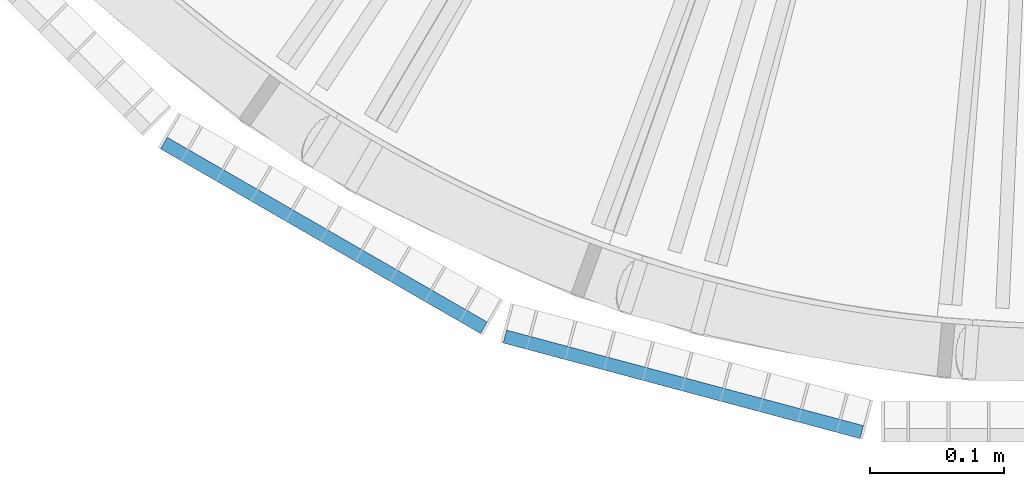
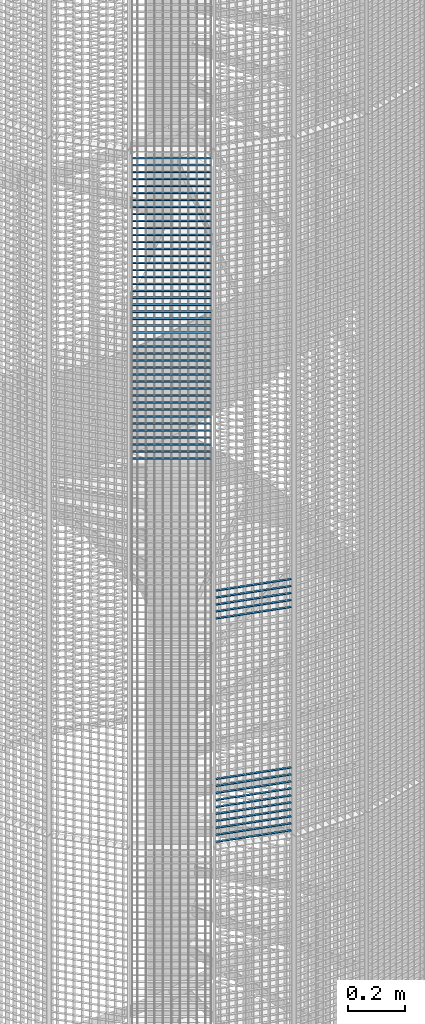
# One storey, part 164 of 1148: 59 beams, 2 elements without a shape of their own.
"""IFC2X3 building model written with IfcOpenShell, lengths in millimetres."""

from ifc_helpers import new_model, si_unit, frame, origin_with_axes, origin_2d_with_axis, place, context, subcontext, project, spatial, rectangle, extrude, material, type_object, element, aggregate, save


model = new_model("IFC2X3")

# Units and contexts
model_context = context("Model", 3, precision=1e-05, world=origin_with_axes())
body_context = subcontext(model_context, "Body", "Model", "MODEL_VIEW")
ifc_project = project(units=[si_unit("LENGTHUNIT", "METRE", prefix="MILLI"), si_unit("AREAUNIT", "SQUARE_METRE"), si_unit("VOLUMEUNIT", "CUBIC_METRE"), si_unit("MASSUNIT", "GRAM", prefix="KILO"), si_unit("TIMEUNIT", "SECOND"), si_unit("PLANEANGLEUNIT", "RADIAN"), si_unit("SOLIDANGLEUNIT", "STERADIAN"), si_unit("THERMODYNAMICTEMPERATUREUNIT", "DEGREE_CELSIUS"), si_unit("LUMINOUSINTENSITYUNIT", "LUMEN")], contexts=[model_context])

# Site, building, storey
site_placement = place(None, origin_with_axes())
site = spatial("IfcSite", under=ifc_project, at=site_placement, Name="Undefined", CompositionType="ELEMENT")
building_placement = place(site_placement, origin_with_axes())
building = spatial("IfcBuilding", under=site, at=building_placement, Name="Undefined", CompositionType="ELEMENT")
storey_placement = place(building_placement, origin_with_axes())
storey = spatial("IfcBuildingStorey", under=building, at=storey_placement, Name="Undefined", CompositionType="ELEMENT", Elevation=0.0)

# Assembly, beams
assembly_1_placement = place(storey_placement, origin_with_axes())
assembly_1 = element("IfcElementAssembly", 1, at=assembly_1_placement, inside=storey, Name="BORDURE", AssemblyPlace="NOTDEFINED", PredefinedType="NOTDEFINED")
ifc_material = material(Name="STEEL/S235JR")
beam_type = type_object("IfcBeamType", Name="PL2*10", PredefinedType="NOTDEFINED")
beam_1_placement = place(assembly_1_placement, frame((-421.483733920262, -1039.82309522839, 3300.0), z_axis=(-0.258819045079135, -0.965925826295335, 0.0), x_axis=(0.965925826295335, -0.258819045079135, 0.0)))
beam_1 = element("IfcBeam", 2, at=beam_1_placement, type_object=beam_type, material=ifc_material, Name="ENTRETOISE", context=body_context, shape_type="SweptSolid", body=[
    extrude(rectangle(XDim=2.0, YDim=10.0, at=origin_2d_with_axis()), frame((275.999999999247, 9.09494701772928e-13, 1.53210777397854e-14), z_axis=(-1.0, 0.0, 0.0), x_axis=(0.0, -1.0, 0.0)), (0.0, 0.0, 1.0), 276.0),
])
beam_2_placement = place(assembly_1_placement, frame((-421.483733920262, -1039.82309522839, 3270.0), z_axis=(-0.258819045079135, -0.965925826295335, 0.0), x_axis=(0.965925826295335, -0.258819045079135, 0.0)))
beam_2 = element("IfcBeam", 3, at=beam_2_placement, type_object=beam_type, material=ifc_material, Name="ENTRETOISE", context=body_context, shape_type="SweptSolid", body=[
    extrude(rectangle(XDim=2.0, YDim=10.0, at=origin_2d_with_axis()), frame((275.999999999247, 9.09494701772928e-13, 1.53210777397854e-14), z_axis=(-1.0, 0.0, 0.0), x_axis=(0.0, -1.0, 0.0)), (0.0, 0.0, 1.0), 276.0),
])
beam_3_placement = place(assembly_1_placement, frame((-421.483733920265, -1039.82309522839, 3990.0), z_axis=(-0.258819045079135, -0.965925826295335, 0.0), x_axis=(0.965925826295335, -0.258819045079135, 0.0)))
beam_3 = element("IfcBeam", 4, at=beam_3_placement, type_object=beam_type, material=ifc_material, Name="ENTRETOISE", context=body_context, shape_type="SweptSolid", body=[
    extrude(rectangle(XDim=2.0, YDim=10.0, at=origin_2d_with_axis()), frame((275.999999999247, 9.09494701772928e-13, 1.53210777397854e-14), z_axis=(-1.0, 0.0, 0.0), x_axis=(0.0, -1.0, 0.0)), (0.0, 0.0, 1.0), 276.0),
])
beam_4_placement = place(assembly_1_placement, frame((-421.483733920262, -1039.82309522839, 3240.0), z_axis=(-0.258819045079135, -0.965925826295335, 0.0), x_axis=(0.965925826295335, -0.258819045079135, 0.0)))
beam_4 = element("IfcBeam", 5, at=beam_4_placement, type_object=beam_type, material=ifc_material, Name="ENTRETOISE", context=body_context, shape_type="SweptSolid", body=[
    extrude(rectangle(XDim=2.0, YDim=10.0, at=origin_2d_with_axis()), frame((275.999999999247, 9.09494701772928e-13, 1.53210777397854e-14), z_axis=(-1.0, 0.0, 0.0), x_axis=(0.0, -1.0, 0.0)), (0.0, 0.0, 1.0), 276.0),
])
beam_5_placement = place(assembly_1_placement, frame((-421.483733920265, -1039.82309522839, 4020.0), z_axis=(-0.258819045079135, -0.965925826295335, 0.0), x_axis=(0.965925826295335, -0.258819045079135, 0.0)))
beam_5 = element("IfcBeam", 6, at=beam_5_placement, type_object=beam_type, material=ifc_material, Name="ENTRETOISE", context=body_context, shape_type="SweptSolid", body=[
    extrude(rectangle(XDim=2.0, YDim=10.0, at=origin_2d_with_axis()), frame((275.999999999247, 9.09494701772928e-13, 1.53210777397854e-14), z_axis=(-1.0, 0.0, 0.0), x_axis=(0.0, -1.0, 0.0)), (0.0, 0.0, 1.0), 276.0),
])
beam_6_placement = place(assembly_1_placement, frame((-421.483733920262, -1039.82309522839, 3210.0), z_axis=(-0.258819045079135, -0.965925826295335, 0.0), x_axis=(0.965925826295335, -0.258819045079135, 0.0)))
beam_6 = element("IfcBeam", 7, at=beam_6_placement, type_object=beam_type, material=ifc_material, Name="ENTRETOISE", context=body_context, shape_type="SweptSolid", body=[
    extrude(rectangle(XDim=2.0, YDim=10.0, at=origin_2d_with_axis()), frame((275.999999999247, 9.09494701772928e-13, 1.53210777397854e-14), z_axis=(-1.0, 0.0, 0.0), x_axis=(0.0, -1.0, 0.0)), (0.0, 0.0, 1.0), 276.0),
])
beam_7_placement = place(assembly_1_placement, frame((-421.483733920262, -1039.82309522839, 3180.0), z_axis=(-0.258819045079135, -0.965925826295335, 0.0), x_axis=(0.965925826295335, -0.258819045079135, 0.0)))
beam_7 = element("IfcBeam", 8, at=beam_7_placement, type_object=beam_type, material=ifc_material, Name="ENTRETOISE", context=body_context, shape_type="SweptSolid", body=[
    extrude(rectangle(XDim=2.0, YDim=10.0, at=origin_2d_with_axis()), frame((275.999999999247, 9.09494701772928e-13, 1.53210777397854e-14), z_axis=(-1.0, 0.0, 0.0), x_axis=(0.0, -1.0, 0.0)), (0.0, 0.0, 1.0), 276.0),
])
beam_8_placement = place(assembly_1_placement, frame((-421.483733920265, -1039.82309522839, 4050.0), z_axis=(-0.258819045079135, -0.965925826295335, 0.0), x_axis=(0.965925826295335, -0.258819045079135, 0.0)))
beam_8 = element("IfcBeam", 9, at=beam_8_placement, type_object=beam_type, material=ifc_material, Name="ENTRETOISE", context=body_context, shape_type="SweptSolid", body=[
    extrude(rectangle(XDim=2.0, YDim=10.0, at=origin_2d_with_axis()), frame((275.999999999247, 9.09494701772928e-13, 1.53210777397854e-14), z_axis=(-1.0, 0.0, 0.0), x_axis=(0.0, -1.0, 0.0)), (0.0, 0.0, 1.0), 276.0),
])
beam_9_placement = place(assembly_1_placement, frame((-421.483733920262, -1039.82309522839, 3150.0), z_axis=(-0.258819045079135, -0.965925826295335, 0.0), x_axis=(0.965925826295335, -0.258819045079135, 0.0)))
beam_9 = element("IfcBeam", 10, at=beam_9_placement, type_object=beam_type, material=ifc_material, Name="ENTRETOISE", context=body_context, shape_type="SweptSolid", body=[
    extrude(rectangle(XDim=2.0, YDim=10.0, at=origin_2d_with_axis()), frame((275.999999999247, 9.09494701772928e-13, 1.53210777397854e-14), z_axis=(-1.0, 0.0, 0.0), x_axis=(0.0, -1.0, 0.0)), (0.0, 0.0, 1.0), 276.0),
])
beam_10_placement = place(assembly_1_placement, frame((-421.483733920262, -1039.82309522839, 3120.0), z_axis=(-0.258819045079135, -0.965925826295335, 0.0), x_axis=(0.965925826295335, -0.258819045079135, 0.0)))
beam_10 = element("IfcBeam", 11, at=beam_10_placement, type_object=beam_type, material=ifc_material, Name="ENTRETOISE", context=body_context, shape_type="SweptSolid", body=[
    extrude(rectangle(XDim=2.0, YDim=10.0, at=origin_2d_with_axis()), frame((275.999999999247, 9.09494701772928e-13, 1.53210777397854e-14), z_axis=(-1.0, 0.0, 0.0), x_axis=(0.0, -1.0, 0.0)), (0.0, 0.0, 1.0), 276.0),
])
beam_11_placement = place(assembly_1_placement, frame((-421.483733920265, -1039.82309522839, 4080.0), z_axis=(-0.258819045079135, -0.965925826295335, 0.0), x_axis=(0.965925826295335, -0.258819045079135, 0.0)))
beam_11 = element("IfcBeam", 12, at=beam_11_placement, type_object=beam_type, material=ifc_material, Name="ENTRETOISE", context=body_context, shape_type="SweptSolid", body=[
    extrude(rectangle(XDim=2.0, YDim=10.0, at=origin_2d_with_axis()), frame((275.999999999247, 9.09494701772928e-13, 1.53210777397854e-14), z_axis=(-1.0, 0.0, 0.0), x_axis=(0.0, -1.0, 0.0)), (0.0, 0.0, 1.0), 276.0),
])
beam_12_placement = place(assembly_1_placement, frame((-421.483733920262, -1039.82309522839, 3090.0), z_axis=(-0.258819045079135, -0.965925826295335, 0.0), x_axis=(0.965925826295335, -0.258819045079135, 0.0)))
beam_12 = element("IfcBeam", 13, at=beam_12_placement, type_object=beam_type, material=ifc_material, Name="ENTRETOISE", context=body_context, shape_type="SweptSolid", body=[
    extrude(rectangle(XDim=2.0, YDim=10.0, at=origin_2d_with_axis()), frame((275.999999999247, 9.09494701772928e-13, 1.53210777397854e-14), z_axis=(-1.0, 0.0, 0.0), x_axis=(0.0, -1.0, 0.0)), (0.0, 0.0, 1.0), 276.0),
])
beam_13_placement = place(assembly_1_placement, frame((-421.483733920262, -1039.82309522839, 3060.0), z_axis=(-0.258819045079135, -0.965925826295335, 0.0), x_axis=(0.965925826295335, -0.258819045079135, 0.0)))
beam_13 = element("IfcBeam", 14, at=beam_13_placement, type_object=beam_type, material=ifc_material, Name="ENTRETOISE", context=body_context, shape_type="SweptSolid", body=[
    extrude(rectangle(XDim=2.0, YDim=10.0, at=origin_2d_with_axis()), frame((275.999999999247, 9.09494701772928e-13, 1.53210777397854e-14), z_axis=(-1.0, 0.0, 0.0), x_axis=(0.0, -1.0, 0.0)), (0.0, 0.0, 1.0), 276.0),
])
beam_14_placement = place(assembly_1_placement, frame((-421.483733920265, -1039.82309522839, 4110.0), z_axis=(-0.258819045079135, -0.965925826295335, 0.0), x_axis=(0.965925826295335, -0.258819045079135, 0.0)))
beam_14 = element("IfcBeam", 15, at=beam_14_placement, type_object=beam_type, material=ifc_material, Name="ENTRETOISE", context=body_context, shape_type="SweptSolid", body=[
    extrude(rectangle(XDim=2.0, YDim=10.0, at=origin_2d_with_axis()), frame((275.999999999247, 9.09494701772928e-13, 1.53210777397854e-14), z_axis=(-1.0, 0.0, 0.0), x_axis=(0.0, -1.0, 0.0)), (0.0, 0.0, 1.0), 276.0),
])
beam_15_placement = place(assembly_1_placement, frame((-421.48373392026, -1039.82309522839, 3030.0), z_axis=(-0.258819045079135, -0.965925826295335, 0.0), x_axis=(0.965925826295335, -0.258819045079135, 0.0)))
beam_15 = element("IfcBeam", 16, at=beam_15_placement, type_object=beam_type, material=ifc_material, Name="ENTRETOISE", context=body_context, shape_type="SweptSolid", body=[
    extrude(rectangle(XDim=2.0, YDim=10.0, at=origin_2d_with_axis()), frame((275.999999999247, 9.09494701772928e-13, 1.53210777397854e-14), z_axis=(-1.0, 0.0, 0.0), x_axis=(0.0, -1.0, 0.0)), (0.0, 0.0, 1.0), 276.0),
])
aggregate(assembly_1, [beam_1, beam_2, beam_3, beam_4, beam_5, beam_6, beam_7, beam_8, beam_9, beam_10, beam_11, beam_12, beam_13, beam_14, beam_15])

assembly_2_placement = place(storey_placement, origin_with_axes())
assembly_2 = element("IfcElementAssembly", 17, at=assembly_2_placement, inside=storey, Name="BORDURE", AssemblyPlace="NOTDEFINED", PredefinedType="NOTDEFINED")
beam_16_placement = place(assembly_2_placement, frame((-676.248044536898, -895.303964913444, 5970.0), z_axis=(-0.49999999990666, -0.866025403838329, 0.0), x_axis=(0.866025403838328, -0.49999999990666, 0.0)))
beam_16 = element("IfcBeam", 18, at=beam_16_placement, type_object=beam_type, material=ifc_material, Name="ENTRETOISE", context=body_context, shape_type="SweptSolid", body=[
    extrude(rectangle(XDim=2.0, YDim=10.0, at=origin_2d_with_axis()), frame((275.999999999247, 9.09494701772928e-13, 1.53210777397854e-14), z_axis=(-1.0, 0.0, 0.0), x_axis=(0.0, -1.0, 0.0)), (0.0, 0.0, 1.0), 276.0),
])
beam_17_placement = place(assembly_2_placement, frame((-676.248044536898, -895.303964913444, 5940.0), z_axis=(-0.49999999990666, -0.866025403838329, 0.0), x_axis=(0.866025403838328, -0.49999999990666, 0.0)))
beam_17 = element("IfcBeam", 19, at=beam_17_placement, type_object=beam_type, material=ifc_material, Name="ENTRETOISE", context=body_context, shape_type="SweptSolid", body=[
    extrude(rectangle(XDim=2.0, YDim=10.0, at=origin_2d_with_axis()), frame((275.999999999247, 9.09494701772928e-13, 1.53210777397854e-14), z_axis=(-1.0, 0.0, 0.0), x_axis=(0.0, -1.0, 0.0)), (0.0, 0.0, 1.0), 276.0),
])
beam_18_placement = place(assembly_2_placement, frame((-676.248044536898, -895.303964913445, 5910.0), z_axis=(-0.49999999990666, -0.866025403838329, 0.0), x_axis=(0.866025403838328, -0.49999999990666, 0.0)))
beam_18 = element("IfcBeam", 20, at=beam_18_placement, type_object=beam_type, material=ifc_material, Name="ENTRETOISE", context=body_context, shape_type="SweptSolid", body=[
    extrude(rectangle(XDim=2.0, YDim=10.0, at=origin_2d_with_axis()), frame((275.999999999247, 9.09494701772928e-13, 1.53210777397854e-14), z_axis=(-1.0, 0.0, 0.0), x_axis=(0.0, -1.0, 0.0)), (0.0, 0.0, 1.0), 276.0),
])
beam_19_placement = place(assembly_2_placement, frame((-676.248044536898, -895.303964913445, 5880.0), z_axis=(-0.49999999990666, -0.866025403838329, 0.0), x_axis=(0.866025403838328, -0.49999999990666, 0.0)))
beam_19 = element("IfcBeam", 21, at=beam_19_placement, type_object=beam_type, material=ifc_material, Name="ENTRETOISE", context=body_context, shape_type="SweptSolid", body=[
    extrude(rectangle(XDim=2.0, YDim=10.0, at=origin_2d_with_axis()), frame((275.999999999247, 9.09494701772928e-13, 1.53210777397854e-14), z_axis=(-1.0, 0.0, 0.0), x_axis=(0.0, -1.0, 0.0)), (0.0, 0.0, 1.0), 276.0),
])
beam_20_placement = place(assembly_2_placement, frame((-676.248044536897, -895.303964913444, 5850.0), z_axis=(-0.49999999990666, -0.866025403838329, 0.0), x_axis=(0.866025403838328, -0.49999999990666, 0.0)))
beam_20 = element("IfcBeam", 22, at=beam_20_placement, type_object=beam_type, material=ifc_material, Name="ENTRETOISE", context=body_context, shape_type="SweptSolid", body=[
    extrude(rectangle(XDim=2.0, YDim=10.0, at=origin_2d_with_axis()), frame((275.999999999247, 9.09494701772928e-13, 1.53210777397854e-14), z_axis=(-1.0, 0.0, 0.0), x_axis=(0.0, -1.0, 0.0)), (0.0, 0.0, 1.0), 276.0),
])
beam_21_placement = place(assembly_2_placement, frame((-676.248044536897, -895.303964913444, 5820.0), z_axis=(-0.49999999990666, -0.866025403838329, 0.0), x_axis=(0.866025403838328, -0.49999999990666, 0.0)))
beam_21 = element("IfcBeam", 23, at=beam_21_placement, type_object=beam_type, material=ifc_material, Name="ENTRETOISE", context=body_context, shape_type="SweptSolid", body=[
    extrude(rectangle(XDim=2.0, YDim=10.0, at=origin_2d_with_axis()), frame((275.999999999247, 9.09494701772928e-13, 1.53210777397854e-14), z_axis=(-1.0, 0.0, 0.0), x_axis=(0.0, -1.0, 0.0)), (0.0, 0.0, 1.0), 276.0),
])
beam_22_placement = place(assembly_2_placement, frame((-676.248044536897, -895.303964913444, 5790.0), z_axis=(-0.49999999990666, -0.866025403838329, 0.0), x_axis=(0.866025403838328, -0.49999999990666, 0.0)))
beam_22 = element("IfcBeam", 24, at=beam_22_placement, type_object=beam_type, material=ifc_material, Name="ENTRETOISE", context=body_context, shape_type="SweptSolid", body=[
    extrude(rectangle(XDim=2.0, YDim=10.0, at=origin_2d_with_axis()), frame((275.999999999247, 9.09494701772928e-13, 1.53210777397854e-14), z_axis=(-1.0, 0.0, 0.0), x_axis=(0.0, -1.0, 0.0)), (0.0, 0.0, 1.0), 276.0),
])
beam_23_placement = place(assembly_2_placement, frame((-676.248044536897, -895.303964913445, 5760.0), z_axis=(-0.49999999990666, -0.866025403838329, 0.0), x_axis=(0.866025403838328, -0.49999999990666, 0.0)))
beam_23 = element("IfcBeam", 25, at=beam_23_placement, type_object=beam_type, material=ifc_material, Name="ENTRETOISE", context=body_context, shape_type="SweptSolid", body=[
    extrude(rectangle(XDim=2.0, YDim=10.0, at=origin_2d_with_axis()), frame((275.999999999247, 9.09494701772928e-13, 1.53210777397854e-14), z_axis=(-1.0, 0.0, 0.0), x_axis=(0.0, -1.0, 0.0)), (0.0, 0.0, 1.0), 276.0),
])
beam_24_placement = place(assembly_2_placement, frame((-676.248044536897, -895.303964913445, 5730.0), z_axis=(-0.49999999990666, -0.866025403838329, 0.0), x_axis=(0.866025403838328, -0.49999999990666, 0.0)))
beam_24 = element("IfcBeam", 26, at=beam_24_placement, type_object=beam_type, material=ifc_material, Name="ENTRETOISE", context=body_context, shape_type="SweptSolid", body=[
    extrude(rectangle(XDim=2.0, YDim=10.0, at=origin_2d_with_axis()), frame((275.999999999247, 9.09494701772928e-13, 1.53210777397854e-14), z_axis=(-1.0, 0.0, 0.0), x_axis=(0.0, -1.0, 0.0)), (0.0, 0.0, 1.0), 276.0),
])
beam_25_placement = place(assembly_2_placement, frame((-676.248044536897, -895.303964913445, 5700.0), z_axis=(-0.49999999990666, -0.866025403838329, 0.0), x_axis=(0.866025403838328, -0.49999999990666, 0.0)))
beam_25 = element("IfcBeam", 27, at=beam_25_placement, type_object=beam_type, material=ifc_material, Name="ENTRETOISE", context=body_context, shape_type="SweptSolid", body=[
    extrude(rectangle(XDim=2.0, YDim=10.0, at=origin_2d_with_axis()), frame((275.999999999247, 9.09494701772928e-13, 1.53210777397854e-14), z_axis=(-1.0, 0.0, 0.0), x_axis=(0.0, -1.0, 0.0)), (0.0, 0.0, 1.0), 276.0),
])
beam_26_placement = place(assembly_2_placement, frame((-676.248044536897, -895.303964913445, 5670.0), z_axis=(-0.49999999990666, -0.866025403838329, 0.0), x_axis=(0.866025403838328, -0.49999999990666, 0.0)))
beam_26 = element("IfcBeam", 28, at=beam_26_placement, type_object=beam_type, material=ifc_material, Name="ENTRETOISE", context=body_context, shape_type="SweptSolid", body=[
    extrude(rectangle(XDim=2.0, YDim=10.0, at=origin_2d_with_axis()), frame((275.999999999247, 9.09494701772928e-13, 1.53210777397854e-14), z_axis=(-1.0, 0.0, 0.0), x_axis=(0.0, -1.0, 0.0)), (0.0, 0.0, 1.0), 276.0),
])
beam_27_placement = place(assembly_2_placement, frame((-676.248044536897, -895.303964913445, 5640.0), z_axis=(-0.49999999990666, -0.866025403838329, 0.0), x_axis=(0.866025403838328, -0.49999999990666, 0.0)))
beam_27 = element("IfcBeam", 29, at=beam_27_placement, type_object=beam_type, material=ifc_material, Name="ENTRETOISE", context=body_context, shape_type="SweptSolid", body=[
    extrude(rectangle(XDim=2.0, YDim=10.0, at=origin_2d_with_axis()), frame((275.999999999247, 9.09494701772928e-13, 1.53210777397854e-14), z_axis=(-1.0, 0.0, 0.0), x_axis=(0.0, -1.0, 0.0)), (0.0, 0.0, 1.0), 276.0),
])
beam_28_placement = place(assembly_2_placement, frame((-676.248044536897, -895.303964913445, 5610.0), z_axis=(-0.49999999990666, -0.866025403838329, 0.0), x_axis=(0.866025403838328, -0.49999999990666, 0.0)))
beam_28 = element("IfcBeam", 30, at=beam_28_placement, type_object=beam_type, material=ifc_material, Name="ENTRETOISE", context=body_context, shape_type="SweptSolid", body=[
    extrude(rectangle(XDim=2.0, YDim=10.0, at=origin_2d_with_axis()), frame((275.999999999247, 9.09494701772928e-13, 1.53210777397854e-14), z_axis=(-1.0, 0.0, 0.0), x_axis=(0.0, -1.0, 0.0)), (0.0, 0.0, 1.0), 276.0),
])
beam_29_placement = place(assembly_2_placement, frame((-676.248044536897, -895.303964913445, 5580.0), z_axis=(-0.49999999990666, -0.866025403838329, 0.0), x_axis=(0.866025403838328, -0.49999999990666, 0.0)))
beam_29 = element("IfcBeam", 31, at=beam_29_placement, type_object=beam_type, material=ifc_material, Name="ENTRETOISE", context=body_context, shape_type="SweptSolid", body=[
    extrude(rectangle(XDim=2.0, YDim=10.0, at=origin_2d_with_axis()), frame((275.999999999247, 9.09494701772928e-13, 1.53210777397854e-14), z_axis=(-1.0, 0.0, 0.0), x_axis=(0.0, -1.0, 0.0)), (0.0, 0.0, 1.0), 276.0),
])
beam_30_placement = place(assembly_2_placement, frame((-676.248044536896, -895.303964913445, 5550.0), z_axis=(-0.49999999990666, -0.866025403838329, 0.0), x_axis=(0.866025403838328, -0.49999999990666, 0.0)))
beam_30 = element("IfcBeam", 32, at=beam_30_placement, type_object=beam_type, material=ifc_material, Name="ENTRETOISE", context=body_context, shape_type="SweptSolid", body=[
    extrude(rectangle(XDim=2.0, YDim=10.0, at=origin_2d_with_axis()), frame((275.999999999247, 9.09494701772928e-13, 1.53210777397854e-14), z_axis=(-1.0, 0.0, 0.0), x_axis=(0.0, -1.0, 0.0)), (0.0, 0.0, 1.0), 276.0),
])
beam_31_placement = place(assembly_2_placement, frame((-676.248044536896, -895.303964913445, 5520.0), z_axis=(-0.49999999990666, -0.866025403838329, 0.0), x_axis=(0.866025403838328, -0.49999999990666, 0.0)))
beam_31 = element("IfcBeam", 33, at=beam_31_placement, type_object=beam_type, material=ifc_material, Name="ENTRETOISE", context=body_context, shape_type="SweptSolid", body=[
    extrude(rectangle(XDim=2.0, YDim=10.0, at=origin_2d_with_axis()), frame((275.999999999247, 9.09494701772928e-13, 1.53210777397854e-14), z_axis=(-1.0, 0.0, 0.0), x_axis=(0.0, -1.0, 0.0)), (0.0, 0.0, 1.0), 276.0),
])
beam_32_placement = place(assembly_2_placement, frame((-676.248044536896, -895.303964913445, 5490.0), z_axis=(-0.49999999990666, -0.866025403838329, 0.0), x_axis=(0.866025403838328, -0.49999999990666, 0.0)))
beam_32 = element("IfcBeam", 34, at=beam_32_placement, type_object=beam_type, material=ifc_material, Name="ENTRETOISE", context=body_context, shape_type="SweptSolid", body=[
    extrude(rectangle(XDim=2.0, YDim=10.0, at=origin_2d_with_axis()), frame((275.999999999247, 9.09494701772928e-13, 1.53210777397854e-14), z_axis=(-1.0, 0.0, 0.0), x_axis=(0.0, -1.0, 0.0)), (0.0, 0.0, 1.0), 276.0),
])
beam_33_placement = place(assembly_2_placement, frame((-676.248044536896, -895.303964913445, 5460.0), z_axis=(-0.49999999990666, -0.866025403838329, 0.0), x_axis=(0.866025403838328, -0.49999999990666, 0.0)))
beam_33 = element("IfcBeam", 35, at=beam_33_placement, type_object=beam_type, material=ifc_material, Name="ENTRETOISE", context=body_context, shape_type="SweptSolid", body=[
    extrude(rectangle(XDim=2.0, YDim=10.0, at=origin_2d_with_axis()), frame((275.999999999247, 9.09494701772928e-13, 1.53210777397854e-14), z_axis=(-1.0, 0.0, 0.0), x_axis=(0.0, -1.0, 0.0)), (0.0, 0.0, 1.0), 276.0),
])
beam_34_placement = place(assembly_2_placement, frame((-676.248044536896, -895.303964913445, 5430.0), z_axis=(-0.49999999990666, -0.866025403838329, 0.0), x_axis=(0.866025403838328, -0.49999999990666, 0.0)))
beam_34 = element("IfcBeam", 36, at=beam_34_placement, type_object=beam_type, material=ifc_material, Name="ENTRETOISE", context=body_context, shape_type="SweptSolid", body=[
    extrude(rectangle(XDim=2.0, YDim=10.0, at=origin_2d_with_axis()), frame((275.999999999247, 9.09494701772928e-13, 1.53210777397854e-14), z_axis=(-1.0, 0.0, 0.0), x_axis=(0.0, -1.0, 0.0)), (0.0, 0.0, 1.0), 276.0),
])
beam_35_placement = place(assembly_2_placement, frame((-676.248044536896, -895.303964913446, 5400.0), z_axis=(-0.49999999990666, -0.866025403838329, 0.0), x_axis=(0.866025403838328, -0.49999999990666, 0.0)))
beam_35 = element("IfcBeam", 37, at=beam_35_placement, type_object=beam_type, material=ifc_material, Name="ENTRETOISE", context=body_context, shape_type="SweptSolid", body=[
    extrude(rectangle(XDim=2.0, YDim=10.0, at=origin_2d_with_axis()), frame((275.999999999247, 9.09494701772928e-13, 1.53210777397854e-14), z_axis=(-1.0, 0.0, 0.0), x_axis=(0.0, -1.0, 0.0)), (0.0, 0.0, 1.0), 276.0),
])
beam_36_placement = place(assembly_2_placement, frame((-676.248044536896, -895.303964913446, 5370.0), z_axis=(-0.49999999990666, -0.866025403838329, 0.0), x_axis=(0.866025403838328, -0.49999999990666, 0.0)))
beam_36 = element("IfcBeam", 38, at=beam_36_placement, type_object=beam_type, material=ifc_material, Name="ENTRETOISE", context=body_context, shape_type="SweptSolid", body=[
    extrude(rectangle(XDim=2.0, YDim=10.0, at=origin_2d_with_axis()), frame((275.999999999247, 9.09494701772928e-13, 1.53210777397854e-14), z_axis=(-1.0, 0.0, 0.0), x_axis=(0.0, -1.0, 0.0)), (0.0, 0.0, 1.0), 276.0),
])
beam_37_placement = place(assembly_2_placement, frame((-676.248044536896, -895.303964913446, 5340.0), z_axis=(-0.49999999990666, -0.866025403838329, 0.0), x_axis=(0.866025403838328, -0.49999999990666, 0.0)))
beam_37 = element("IfcBeam", 39, at=beam_37_placement, type_object=beam_type, material=ifc_material, Name="ENTRETOISE", context=body_context, shape_type="SweptSolid", body=[
    extrude(rectangle(XDim=2.0, YDim=10.0, at=origin_2d_with_axis()), frame((275.999999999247, 9.09494701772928e-13, 1.53210777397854e-14), z_axis=(-1.0, 0.0, 0.0), x_axis=(0.0, -1.0, 0.0)), (0.0, 0.0, 1.0), 276.0),
])
beam_38_placement = place(assembly_2_placement, frame((-676.248044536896, -895.303964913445, 5310.0), z_axis=(-0.49999999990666, -0.866025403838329, 0.0), x_axis=(0.866025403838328, -0.49999999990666, 0.0)))
beam_38 = element("IfcBeam", 40, at=beam_38_placement, type_object=beam_type, material=ifc_material, Name="ENTRETOISE", context=body_context, shape_type="SweptSolid", body=[
    extrude(rectangle(XDim=2.0, YDim=10.0, at=origin_2d_with_axis()), frame((275.999999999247, 9.09494701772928e-13, 1.53210777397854e-14), z_axis=(-1.0, 0.0, 0.0), x_axis=(0.0, -1.0, 0.0)), (0.0, 0.0, 1.0), 276.0),
])
beam_39_placement = place(assembly_2_placement, frame((-676.248044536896, -895.303964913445, 5280.0), z_axis=(-0.49999999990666, -0.866025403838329, 0.0), x_axis=(0.866025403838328, -0.49999999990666, 0.0)))
beam_39 = element("IfcBeam", 41, at=beam_39_placement, type_object=beam_type, material=ifc_material, Name="ENTRETOISE", context=body_context, shape_type="SweptSolid", body=[
    extrude(rectangle(XDim=2.0, YDim=10.0, at=origin_2d_with_axis()), frame((275.999999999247, 9.09494701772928e-13, 1.53210777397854e-14), z_axis=(-1.0, 0.0, 0.0), x_axis=(0.0, -1.0, 0.0)), (0.0, 0.0, 1.0), 276.0),
])
beam_40_placement = place(assembly_2_placement, frame((-676.248044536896, -895.303964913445, 5250.0), z_axis=(-0.49999999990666, -0.866025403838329, 0.0), x_axis=(0.866025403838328, -0.49999999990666, 0.0)))
beam_40 = element("IfcBeam", 42, at=beam_40_placement, type_object=beam_type, material=ifc_material, Name="ENTRETOISE", context=body_context, shape_type="SweptSolid", body=[
    extrude(rectangle(XDim=2.0, YDim=10.0, at=origin_2d_with_axis()), frame((275.999999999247, 9.09494701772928e-13, 1.53210777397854e-14), z_axis=(-1.0, 0.0, 0.0), x_axis=(0.0, -1.0, 0.0)), (0.0, 0.0, 1.0), 276.0),
])
beam_41_placement = place(assembly_2_placement, frame((-676.248044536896, -895.303964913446, 5220.0), z_axis=(-0.49999999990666, -0.866025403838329, 0.0), x_axis=(0.866025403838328, -0.49999999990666, 0.0)))
beam_41 = element("IfcBeam", 43, at=beam_41_placement, type_object=beam_type, material=ifc_material, Name="ENTRETOISE", context=body_context, shape_type="SweptSolid", body=[
    extrude(rectangle(XDim=2.0, YDim=10.0, at=origin_2d_with_axis()), frame((275.999999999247, 9.09494701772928e-13, 1.53210777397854e-14), z_axis=(-1.0, 0.0, 0.0), x_axis=(0.0, -1.0, 0.0)), (0.0, 0.0, 1.0), 276.0),
])
beam_42_placement = place(assembly_2_placement, frame((-676.248044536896, -895.303964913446, 5190.0), z_axis=(-0.49999999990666, -0.866025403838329, 0.0), x_axis=(0.866025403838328, -0.49999999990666, 0.0)))
beam_42 = element("IfcBeam", 44, at=beam_42_placement, type_object=beam_type, material=ifc_material, Name="ENTRETOISE", context=body_context, shape_type="SweptSolid", body=[
    extrude(rectangle(XDim=2.0, YDim=10.0, at=origin_2d_with_axis()), frame((275.999999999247, 9.09494701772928e-13, 1.53210777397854e-14), z_axis=(-1.0, 0.0, 0.0), x_axis=(0.0, -1.0, 0.0)), (0.0, 0.0, 1.0), 276.0),
])
beam_43_placement = place(assembly_2_placement, frame((-676.248044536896, -895.303964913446, 5160.0), z_axis=(-0.49999999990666, -0.866025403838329, 0.0), x_axis=(0.866025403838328, -0.49999999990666, 0.0)))
beam_43 = element("IfcBeam", 45, at=beam_43_placement, type_object=beam_type, material=ifc_material, Name="ENTRETOISE", context=body_context, shape_type="SweptSolid", body=[
    extrude(rectangle(XDim=2.0, YDim=10.0, at=origin_2d_with_axis()), frame((275.999999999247, 9.09494701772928e-13, 1.53210777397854e-14), z_axis=(-1.0, 0.0, 0.0), x_axis=(0.0, -1.0, 0.0)), (0.0, 0.0, 1.0), 276.0),
])
beam_44_placement = place(assembly_2_placement, frame((-676.248044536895, -895.303964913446, 5130.0), z_axis=(-0.49999999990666, -0.866025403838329, 0.0), x_axis=(0.866025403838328, -0.49999999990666, 0.0)))
beam_44 = element("IfcBeam", 46, at=beam_44_placement, type_object=beam_type, material=ifc_material, Name="ENTRETOISE", context=body_context, shape_type="SweptSolid", body=[
    extrude(rectangle(XDim=2.0, YDim=10.0, at=origin_2d_with_axis()), frame((275.999999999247, 9.09494701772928e-13, 1.53210777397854e-14), z_axis=(-1.0, 0.0, 0.0), x_axis=(0.0, -1.0, 0.0)), (0.0, 0.0, 1.0), 276.0),
])
beam_45_placement = place(assembly_2_placement, frame((-676.248044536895, -895.303964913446, 5100.0), z_axis=(-0.49999999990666, -0.866025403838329, 0.0), x_axis=(0.866025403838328, -0.49999999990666, 0.0)))
beam_45 = element("IfcBeam", 47, at=beam_45_placement, type_object=beam_type, material=ifc_material, Name="ENTRETOISE", context=body_context, shape_type="SweptSolid", body=[
    extrude(rectangle(XDim=2.0, YDim=10.0, at=origin_2d_with_axis()), frame((275.999999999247, 9.09494701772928e-13, 1.53210777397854e-14), z_axis=(-1.0, 0.0, 0.0), x_axis=(0.0, -1.0, 0.0)), (0.0, 0.0, 1.0), 276.0),
])
beam_46_placement = place(assembly_2_placement, frame((-676.248044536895, -895.303964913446, 5070.0), z_axis=(-0.49999999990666, -0.866025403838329, 0.0), x_axis=(0.866025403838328, -0.49999999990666, 0.0)))
beam_46 = element("IfcBeam", 48, at=beam_46_placement, type_object=beam_type, material=ifc_material, Name="ENTRETOISE", context=body_context, shape_type="SweptSolid", body=[
    extrude(rectangle(XDim=2.0, YDim=10.0, at=origin_2d_with_axis()), frame((275.999999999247, 9.09494701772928e-13, 1.53210777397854e-14), z_axis=(-1.0, 0.0, 0.0), x_axis=(0.0, -1.0, 0.0)), (0.0, 0.0, 1.0), 276.0),
])
beam_47_placement = place(assembly_2_placement, frame((-676.248044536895, -895.303964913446, 5040.0), z_axis=(-0.49999999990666, -0.866025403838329, 0.0), x_axis=(0.866025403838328, -0.49999999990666, 0.0)))
beam_47 = element("IfcBeam", 49, at=beam_47_placement, type_object=beam_type, material=ifc_material, Name="ENTRETOISE", context=body_context, shape_type="SweptSolid", body=[
    extrude(rectangle(XDim=2.0, YDim=10.0, at=origin_2d_with_axis()), frame((275.999999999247, 9.09494701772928e-13, 1.53210777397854e-14), z_axis=(-1.0, 0.0, 0.0), x_axis=(0.0, -1.0, 0.0)), (0.0, 0.0, 1.0), 276.0),
])
beam_48_placement = place(assembly_2_placement, frame((-676.248044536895, -895.303964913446, 5010.0), z_axis=(-0.49999999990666, -0.866025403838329, 0.0), x_axis=(0.866025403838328, -0.49999999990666, 0.0)))
beam_48 = element("IfcBeam", 50, at=beam_48_placement, type_object=beam_type, material=ifc_material, Name="ENTRETOISE", context=body_context, shape_type="SweptSolid", body=[
    extrude(rectangle(XDim=2.0, YDim=10.0, at=origin_2d_with_axis()), frame((275.999999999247, 9.09494701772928e-13, 1.53210777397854e-14), z_axis=(-1.0, 0.0, 0.0), x_axis=(0.0, -1.0, 0.0)), (0.0, 0.0, 1.0), 276.0),
])
beam_49_placement = place(assembly_2_placement, frame((-676.248044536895, -895.303964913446, 4980.0), z_axis=(-0.49999999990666, -0.866025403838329, 0.0), x_axis=(0.866025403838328, -0.49999999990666, 0.0)))
beam_49 = element("IfcBeam", 51, at=beam_49_placement, type_object=beam_type, material=ifc_material, Name="ENTRETOISE", context=body_context, shape_type="SweptSolid", body=[
    extrude(rectangle(XDim=2.0, YDim=10.0, at=origin_2d_with_axis()), frame((275.999999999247, 9.09494701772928e-13, 1.53210777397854e-14), z_axis=(-1.0, 0.0, 0.0), x_axis=(0.0, -1.0, 0.0)), (0.0, 0.0, 1.0), 276.0),
])
beam_50_placement = place(assembly_2_placement, frame((-676.248044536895, -895.303964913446, 4950.0), z_axis=(-0.49999999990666, -0.866025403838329, 0.0), x_axis=(0.866025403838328, -0.49999999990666, 0.0)))
beam_50 = element("IfcBeam", 52, at=beam_50_placement, type_object=beam_type, material=ifc_material, Name="ENTRETOISE", context=body_context, shape_type="SweptSolid", body=[
    extrude(rectangle(XDim=2.0, YDim=10.0, at=origin_2d_with_axis()), frame((275.999999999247, 9.09494701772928e-13, 1.53210777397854e-14), z_axis=(-1.0, 0.0, 0.0), x_axis=(0.0, -1.0, 0.0)), (0.0, 0.0, 1.0), 276.0),
])
beam_51_placement = place(assembly_2_placement, frame((-676.248044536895, -895.303964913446, 4920.0), z_axis=(-0.49999999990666, -0.866025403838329, 0.0), x_axis=(0.866025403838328, -0.49999999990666, 0.0)))
beam_51 = element("IfcBeam", 53, at=beam_51_placement, type_object=beam_type, material=ifc_material, Name="ENTRETOISE", context=body_context, shape_type="SweptSolid", body=[
    extrude(rectangle(XDim=2.0, YDim=10.0, at=origin_2d_with_axis()), frame((275.999999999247, 9.09494701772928e-13, 1.53210777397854e-14), z_axis=(-1.0, 0.0, 0.0), x_axis=(0.0, -1.0, 0.0)), (0.0, 0.0, 1.0), 276.0),
])
beam_52_placement = place(assembly_2_placement, frame((-676.248044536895, -895.303964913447, 4890.0), z_axis=(-0.49999999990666, -0.866025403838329, 0.0), x_axis=(0.866025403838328, -0.49999999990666, 0.0)))
beam_52 = element("IfcBeam", 54, at=beam_52_placement, type_object=beam_type, material=ifc_material, Name="ENTRETOISE", context=body_context, shape_type="SweptSolid", body=[
    extrude(rectangle(XDim=2.0, YDim=10.0, at=origin_2d_with_axis()), frame((275.999999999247, 9.09494701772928e-13, 1.53210777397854e-14), z_axis=(-1.0, 0.0, 0.0), x_axis=(0.0, -1.0, 0.0)), (0.0, 0.0, 1.0), 276.0),
])
beam_53_placement = place(assembly_2_placement, frame((-676.248044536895, -895.303964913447, 4860.0), z_axis=(-0.49999999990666, -0.866025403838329, 0.0), x_axis=(0.866025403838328, -0.49999999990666, 0.0)))
beam_53 = element("IfcBeam", 55, at=beam_53_placement, type_object=beam_type, material=ifc_material, Name="ENTRETOISE", context=body_context, shape_type="SweptSolid", body=[
    extrude(rectangle(XDim=2.0, YDim=10.0, at=origin_2d_with_axis()), frame((275.999999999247, 9.09494701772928e-13, 1.53210777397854e-14), z_axis=(-1.0, 0.0, 0.0), x_axis=(0.0, -1.0, 0.0)), (0.0, 0.0, 1.0), 276.0),
])
beam_54_placement = place(assembly_2_placement, frame((-676.248044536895, -895.303964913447, 4830.0), z_axis=(-0.49999999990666, -0.866025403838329, 0.0), x_axis=(0.866025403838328, -0.49999999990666, 0.0)))
beam_54 = element("IfcBeam", 56, at=beam_54_placement, type_object=beam_type, material=ifc_material, Name="ENTRETOISE", context=body_context, shape_type="SweptSolid", body=[
    extrude(rectangle(XDim=2.0, YDim=10.0, at=origin_2d_with_axis()), frame((275.999999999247, 9.09494701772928e-13, 1.53210777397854e-14), z_axis=(-1.0, 0.0, 0.0), x_axis=(0.0, -1.0, 0.0)), (0.0, 0.0, 1.0), 276.0),
])
beam_55_placement = place(assembly_2_placement, frame((-676.248044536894, -895.303964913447, 4800.0), z_axis=(-0.49999999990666, -0.866025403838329, 0.0), x_axis=(0.866025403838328, -0.49999999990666, 0.0)))
beam_55 = element("IfcBeam", 57, at=beam_55_placement, type_object=beam_type, material=ifc_material, Name="ENTRETOISE", context=body_context, shape_type="SweptSolid", body=[
    extrude(rectangle(XDim=2.0, YDim=10.0, at=origin_2d_with_axis()), frame((275.999999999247, 9.09494701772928e-13, 1.53210777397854e-14), z_axis=(-1.0, 0.0, 0.0), x_axis=(0.0, -1.0, 0.0)), (0.0, 0.0, 1.0), 276.0),
])
beam_56_placement = place(assembly_2_placement, frame((-676.248044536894, -895.303964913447, 4770.0), z_axis=(-0.49999999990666, -0.866025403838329, 0.0), x_axis=(0.866025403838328, -0.49999999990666, 0.0)))
beam_56 = element("IfcBeam", 58, at=beam_56_placement, type_object=beam_type, material=ifc_material, Name="ENTRETOISE", context=body_context, shape_type="SweptSolid", body=[
    extrude(rectangle(XDim=2.0, YDim=10.0, at=origin_2d_with_axis()), frame((275.999999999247, 9.09494701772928e-13, 1.53210777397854e-14), z_axis=(-1.0, 0.0, 0.0), x_axis=(0.0, -1.0, 0.0)), (0.0, 0.0, 1.0), 276.0),
])
beam_57_placement = place(assembly_2_placement, frame((-676.248044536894, -895.303964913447, 4740.0), z_axis=(-0.49999999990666, -0.866025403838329, 0.0), x_axis=(0.866025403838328, -0.49999999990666, 0.0)))
beam_57 = element("IfcBeam", 59, at=beam_57_placement, type_object=beam_type, material=ifc_material, Name="ENTRETOISE", context=body_context, shape_type="SweptSolid", body=[
    extrude(rectangle(XDim=2.0, YDim=10.0, at=origin_2d_with_axis()), frame((275.999999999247, 9.09494701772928e-13, 1.53210777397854e-14), z_axis=(-1.0, 0.0, 0.0), x_axis=(0.0, -1.0, 0.0)), (0.0, 0.0, 1.0), 276.0),
])
beam_58_placement = place(assembly_2_placement, frame((-676.248044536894, -895.303964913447, 4710.0), z_axis=(-0.49999999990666, -0.866025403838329, 0.0), x_axis=(0.866025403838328, -0.49999999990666, 0.0)))
beam_58 = element("IfcBeam", 60, at=beam_58_placement, type_object=beam_type, material=ifc_material, Name="ENTRETOISE", context=body_context, shape_type="SweptSolid", body=[
    extrude(rectangle(XDim=2.0, YDim=10.0, at=origin_2d_with_axis()), frame((275.999999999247, 9.09494701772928e-13, 1.53210777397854e-14), z_axis=(-1.0, 0.0, 0.0), x_axis=(0.0, -1.0, 0.0)), (0.0, 0.0, 1.0), 276.0),
])
beam_59_placement = place(assembly_2_placement, frame((-676.248044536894, -895.303964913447, 4680.0), z_axis=(-0.49999999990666, -0.866025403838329, 0.0), x_axis=(0.866025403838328, -0.49999999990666, 0.0)))
beam_59 = element("IfcBeam", 61, at=beam_59_placement, type_object=beam_type, material=ifc_material, Name="ENTRETOISE", context=body_context, shape_type="SweptSolid", body=[
    extrude(rectangle(XDim=2.0, YDim=10.0, at=origin_2d_with_axis()), frame((275.999999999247, 9.09494701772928e-13, 1.53210777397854e-14), z_axis=(-1.0, 0.0, 0.0), x_axis=(0.0, -1.0, 0.0)), (0.0, 0.0, 1.0), 276.0),
])
aggregate(assembly_2, [beam_16, beam_17, beam_18, beam_19, beam_20, beam_21, beam_22, beam_23, beam_24, beam_25, beam_26, beam_27, beam_28, beam_29, beam_30, beam_31, beam_32, beam_33, beam_34, beam_35, beam_36, beam_37, beam_38, beam_39, beam_40, beam_41, beam_42, beam_43, beam_44, beam_45, beam_46, beam_47, beam_48, beam_49, beam_50, beam_51, beam_52, beam_53, beam_54, beam_55, beam_56, beam_57, beam_58, beam_59])

save(model, "model.ifc")
